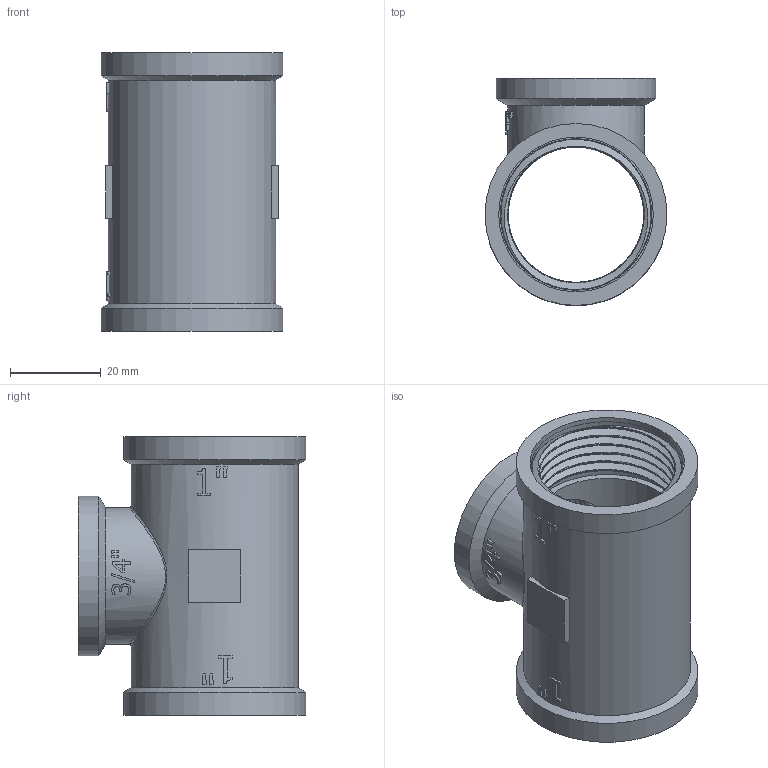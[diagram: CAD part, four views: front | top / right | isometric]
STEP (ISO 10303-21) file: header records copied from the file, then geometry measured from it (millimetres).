
FILE_DESCRIPTION(/* description */ (''),/* implementation_level */ '2;1');
FILE_NAME(/* name */ 'C:\Users\Doom\Desktop\Фадотех\Резьба\T06 29.04.2021\T06 29.04.2021.stp',/* time_stamp */ '2022-01-19T22:35:52+02:00',/* author */ ('Doom'),/* organization */ (''),/* preprocessor_version */ 'ST-DEVELOPER v18',/* originating_system */ 'Autodesk Inventor 2020',/* authorisation */ '');
FILE_SCHEMA (('AUTOMOTIVE_DESIGN { 1 0 10303 214 3 1 1 }'));
Length unit declared in the file: millimetre
Products named in the file (1): T06 29.04.2021
Bounding box: 40 x 50 x 61.2 mm (x, y, z)
Volume: 27431 mm3; surface area: 28539.8 mm2
Topology: 4 solids, 4 shells, 211 faces, 566 edges, 382 vertices
Faces by surface type: plane 111, cylinder 53, bspline 44, cone 3
Full cylindrical faces by diameter (mm): 23.75 x7, 24.11 x1, 26.44 x2, 27 x1, 29.816 x12, 30 x1, 30.29 x1, 33.24 x4, 34 x2, 35 x1, 36.8 x1, 40 x2
Entity records: 18091 total; most frequent: CARTESIAN_POINT 12988, ORIENTED_EDGE 1126, DIRECTION 919, EDGE_CURVE 563, VERTEX_POINT 381, AXIS2_PLACEMENT_3D 339, EDGE_LOOP 242, LINE 241
